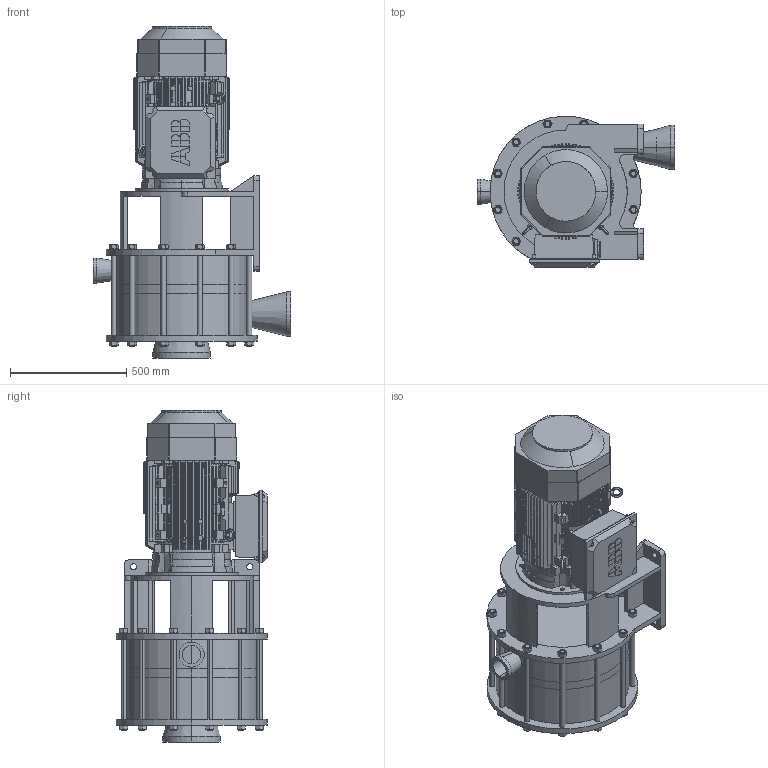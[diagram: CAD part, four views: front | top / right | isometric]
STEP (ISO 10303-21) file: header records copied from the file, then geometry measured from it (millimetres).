
FILE_DESCRIPTION((''),'2;1');
FILE_NAME('MJ150 Plastic--200L frame.stp','2010-08-04T14:27:40',(''),(''),'AutoCAD STEP 2000i','AutoCAD 2000i',', , ');
FILE_SCHEMA(('CONFIG_CONTROL_DESIGN'));
Length unit declared in the file: millimetre
Products named in the file (8): MJ150 PLASTIC--200L FRAME A; Motor; M3BP200ML vertical; M3BP180ML; M3BP160MLB4 (long); AnyA; Any; AnyAA
Assembly tree (4 placements, depth 2):
  MJ150 PLASTIC--200L FRAME A
    Motor
    M3BP200ML vertical
    M3BP180ML
    M3BP160MLB4 (long)
  AnyA
  Any
  AnyAA
Bounding box: 851 x 652.72 x 1428.11 mm (x, y, z)
Volume: 198923192 mm3; surface area: 8165359.9 mm2
Topology: 22 solids, 190 shells, 3151 faces, 8693 edges, 5643 vertices
Faces by surface type: plane 1208, torus 672, bspline 622, cylinder 537, cone 112
Entity records: 106688 total; most frequent: CARTESIAN_POINT 31826, ORIENTED_EDGE 17302, DIRECTION 14023, EDGE_CURVE 8651, VERTEX_POINT 5643, AXIS2_PLACEMENT_3D 5456, EDGE_LOOP 3334, FACE_OUTER_BOUND 3151
